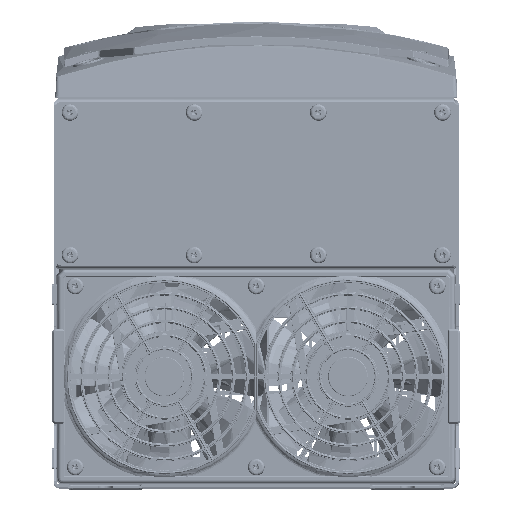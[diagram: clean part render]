
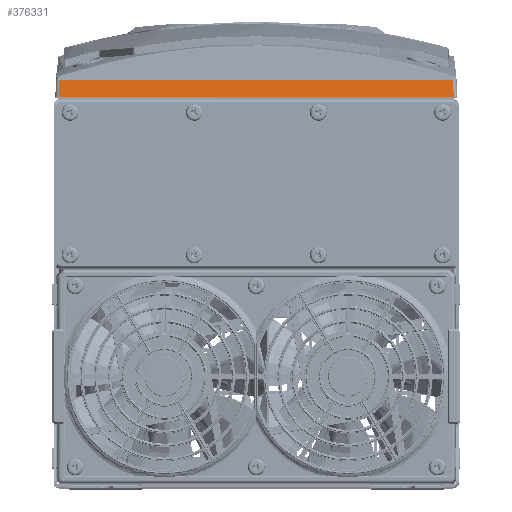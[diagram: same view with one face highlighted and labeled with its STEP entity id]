
A CAD part, top view. The second image highlights one B-rep face of the part: STEP entity #376331.
In plain terms, the highlighted planar face has unit normal (0, 0.119, 0.993).
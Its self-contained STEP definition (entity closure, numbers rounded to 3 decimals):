
#1137 = CARTESIAN_POINT ( 'NONE',  ( -114.194, 236.023, -20.538 ) ) ;
#12860 = EDGE_CURVE ( 'NONE', #389976, #21924, #99989, .T. ) ;
#21924 = VERTEX_POINT ( 'NONE', #320037 ) ;
#36820 = DIRECTION ( 'NONE',  ( 1., 0., 0. ) ) ;
#37988 = EDGE_CURVE ( 'NONE', #213174, #328153, #287879, .T. ) ;
#52140 = CARTESIAN_POINT ( 'NONE',  ( 114.203, 235.795, -20.511 ) ) ;
#59968 = VECTOR ( 'NONE', #383204, 1000. ) ;
#67991 = ORIENTED_EDGE ( 'NONE', *, *, #182166, .T. ) ;
#75366 = CARTESIAN_POINT ( 'NONE',  ( -114.21, 235.568, -20.484 ) ) ;
#91917 = CARTESIAN_POINT ( 'NONE',  ( 114.507, 226.25, -19.365 ) ) ;
#95024 = LINE ( 'NONE', #221417, #297043 ) ;
#96999 = CARTESIAN_POINT ( 'NONE',  ( -117.5, 226.25, -19.365 ) ) ;
#99589 = EDGE_LOOP ( 'NONE', ( #191971, #272174, #149214, #309954, #299443, #67991 ) ) ;
#99989 = B_SPLINE_CURVE_WITH_KNOTS ( 'NONE', 3,
 ( #267734, #52140, #145402, #203528 ),
 .UNSPECIFIED., .F., .F.,
 ( 4, 4 ),
 ( 0., 0.001 ),
 .UNSPECIFIED. ) ;
#145402 = CARTESIAN_POINT ( 'NONE',  ( 114.194, 236.023, -20.538 ) ) ;
#145918 = PLANE ( 'NONE',  #346383 ) ;
#149214 = ORIENTED_EDGE ( 'NONE', *, *, #309027, .T. ) ;
#154069 = DIRECTION ( 'NONE',  ( 0., 0.993, -0.119 ) ) ;
#167412 = DIRECTION ( 'NONE',  ( -0.032, 0.992, -0.119 ) ) ;
#177286 = CARTESIAN_POINT ( 'NONE',  ( 114.21, 235.568, -20.484 ) ) ;
#179085 = DIRECTION ( 'NONE',  ( 0., -0.119, -0.993 ) ) ;
#182166 = EDGE_CURVE ( 'NONE', #328153, #345991, #258574, .T. ) ;
#188886 = CARTESIAN_POINT ( 'NONE',  ( -114.507, 226.25, -19.365 ) ) ;
#191971 = ORIENTED_EDGE ( 'NONE', *, *, #238521, .T. ) ;
#203528 = CARTESIAN_POINT ( 'NONE',  ( 114.184, 236.25, -20.565 ) ) ;
#203594 = CARTESIAN_POINT ( 'NONE',  ( -114.184, 236.25, -20.565 ) ) ;
#213174 = VERTEX_POINT ( 'NONE', #75366 ) ;
#214257 = CARTESIAN_POINT ( 'NONE',  ( 116.3, 236.25, -20.565 ) ) ;
#214791 = CARTESIAN_POINT ( 'NONE',  ( -114.184, 236.25, -20.565 ) ) ;
#221417 = CARTESIAN_POINT ( 'NONE',  ( 114.191, 236.184, -20.558 ) ) ;
#238521 = EDGE_CURVE ( 'NONE', #345991, #389976, #95024, .T. ) ;
#247113 = DIRECTION ( 'NONE',  ( -1., 0., 0. ) ) ;
#247378 = FACE_OUTER_BOUND ( 'NONE', #99589, .T. ) ;
#253988 = CARTESIAN_POINT ( 'NONE',  ( -114.203, 235.795, -20.511 ) ) ;
#254731 = CARTESIAN_POINT ( 'NONE',  ( -114.509, 226.188, -19.358 ) ) ;
#258574 = LINE ( 'NONE', #96999, #314962 ) ;
#263347 = B_SPLINE_CURVE_WITH_KNOTS ( 'NONE', 3,
 ( #214791, #1137, #253988, #380403 ),
 .UNSPECIFIED., .F., .F.,
 ( 4, 4 ),
 ( 0., 0.001 ),
 .UNSPECIFIED. ) ;
#267734 = CARTESIAN_POINT ( 'NONE',  ( 114.21, 235.568, -20.484 ) ) ;
#272174 = ORIENTED_EDGE ( 'NONE', *, *, #12860, .T. ) ;
#274071 = LINE ( 'NONE', #373502, #289697 ) ;
#274654 = VERTEX_POINT ( 'NONE', #203594 ) ;
#287879 = LINE ( 'NONE', #254731, #59968 ) ;
#289697 = VECTOR ( 'NONE', #247113, 1000. ) ;
#297043 = VECTOR ( 'NONE', #167412, 1000. ) ;
#299443 = ORIENTED_EDGE ( 'NONE', *, *, #37988, .T. ) ;
#309027 = EDGE_CURVE ( 'NONE', #21924, #274654, #274071, .T. ) ;
#309954 = ORIENTED_EDGE ( 'NONE', *, *, #312973, .T. ) ;
#312973 = EDGE_CURVE ( 'NONE', #274654, #213174, #263347, .T. ) ;
#314962 = VECTOR ( 'NONE', #36820, 1000. ) ;
#320037 = CARTESIAN_POINT ( 'NONE',  ( 114.184, 236.25, -20.565 ) ) ;
#328153 = VERTEX_POINT ( 'NONE', #188886 ) ;
#345991 = VERTEX_POINT ( 'NONE', #91917 ) ;
#346383 = AXIS2_PLACEMENT_3D ( 'NONE', #214257, #179085, #154069 ) ;
#373502 = CARTESIAN_POINT ( 'NONE',  ( 0., 236.25, -20.565 ) ) ;
#376331 = ADVANCED_FACE ( 'NONE', ( #247378 ), #145918, .F. ) ;
#380403 = CARTESIAN_POINT ( 'NONE',  ( -114.21, 235.568, -20.484 ) ) ;
#383204 = DIRECTION ( 'NONE',  ( -0.032, -0.992, 0.119 ) ) ;
#389976 = VERTEX_POINT ( 'NONE', #177286 ) ;
